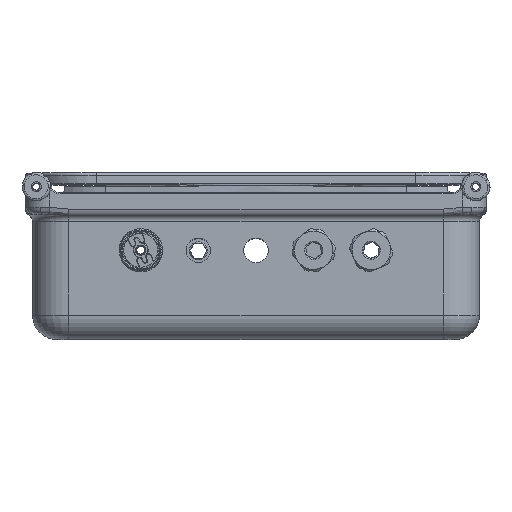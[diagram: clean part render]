
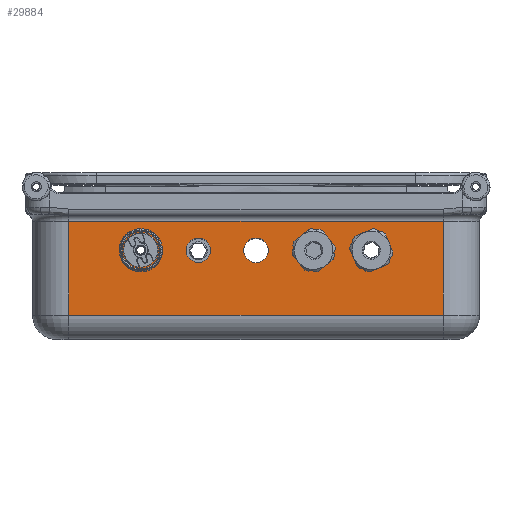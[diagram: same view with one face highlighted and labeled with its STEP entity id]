
A CAD part, top view. The second image highlights one B-rep face of the part: STEP entity #29884.
In plain terms, the highlighted planar face has unit normal (0, 0, 1).
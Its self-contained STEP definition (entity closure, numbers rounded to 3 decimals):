
#692 = DIRECTION ( 'NONE',  ( 1., 0., 0. ) ) ;
#768 = EDGE_CURVE ( 'NONE', #2065, #16257, #3831, .T. ) ;
#784 = VERTEX_POINT ( 'NONE', #29312 ) ;
#921 = CARTESIAN_POINT ( 'NONE',  ( 0., 25., 60.5 ) ) ;
#1260 = VERTEX_POINT ( 'NONE', #15580 ) ;
#1279 = EDGE_CURVE ( 'NONE', #784, #38543, #29090, .T. ) ;
#1467 = CARTESIAN_POINT ( 'NONE',  ( 53.1, 25., 60.5 ) ) ;
#1472 = AXIS2_PLACEMENT_3D ( 'NONE', #921, #37528, #25467 ) ;
#1658 = CARTESIAN_POINT ( 'NONE',  ( 78., -2., 60.5 ) ) ;
#2065 = VERTEX_POINT ( 'NONE', #1467 ) ;
#2340 = AXIS2_PLACEMENT_3D ( 'NONE', #34578, #7045, #31032 ) ;
#2474 = VERTEX_POINT ( 'NONE', #1658 ) ;
#2650 = EDGE_LOOP ( 'NONE', ( #9982, #32530 ) ) ;
#2722 = FACE_BOUND ( 'NONE', #8577, .T. ) ;
#2832 = ORIENTED_EDGE ( 'NONE', *, *, #28181, .T. ) ;
#3793 = ORIENTED_EDGE ( 'NONE', *, *, #23110, .F. ) ;
#3831 = CIRCLE ( 'NONE', #37333, 5.1 ) ;
#4008 = AXIS2_PLACEMENT_3D ( 'NONE', #27249, #12195, #9604 ) ;
#4782 = ORIENTED_EDGE ( 'NONE', *, *, #25006, .F. ) ;
#5859 = AXIS2_PLACEMENT_3D ( 'NONE', #20500, #13742, #30864 ) ;
#6228 = CARTESIAN_POINT ( 'NONE',  ( 48., 25., 60.5 ) ) ;
#6445 = FACE_BOUND ( 'NONE', #38203, .T. ) ;
#6517 = CIRCLE ( 'NONE', #1472, 5.1 ) ;
#7045 = DIRECTION ( 'NONE',  ( 0., 0., 1. ) ) ;
#7762 = EDGE_CURVE ( 'NONE', #33498, #2474, #36591, .T. ) ;
#8102 = CARTESIAN_POINT ( 'NONE',  ( -78., 40., 60.5 ) ) ;
#8577 = EDGE_LOOP ( 'NONE', ( #19871, #4782 ) ) ;
#8723 = VERTEX_POINT ( 'NONE', #35140 ) ;
#9079 = CIRCLE ( 'NONE', #4008, 5.1 ) ;
#9108 = VERTEX_POINT ( 'NONE', #35384 ) ;
#9604 = DIRECTION ( 'NONE',  ( 1., 0., 0. ) ) ;
#9863 = CARTESIAN_POINT ( 'NONE',  ( 78., 40., 60.5 ) ) ;
#9982 = ORIENTED_EDGE ( 'NONE', *, *, #1279, .F. ) ;
#10061 = DIRECTION ( 'NONE',  ( 0., 0., 1. ) ) ;
#10535 = CIRCLE ( 'NONE', #2340, 5.1 ) ;
#10837 = CIRCLE ( 'NONE', #34853, 5.1 ) ;
#10923 = CIRCLE ( 'NONE', #5859, 5.1 ) ;
#10958 = AXIS2_PLACEMENT_3D ( 'NONE', #37974, #10061, #34210 ) ;
#12003 = AXIS2_PLACEMENT_3D ( 'NONE', #33551, #27636, #24680 ) ;
#12195 = DIRECTION ( 'NONE',  ( 0., 0., 1. ) ) ;
#12852 = DIRECTION ( 'NONE',  ( -1., 0., 0. ) ) ;
#12870 = CIRCLE ( 'NONE', #10958, 5.1 ) ;
#13009 = CARTESIAN_POINT ( 'NONE',  ( 78., -2., 60.5 ) ) ;
#13742 = DIRECTION ( 'NONE',  ( 0., 0., 1. ) ) ;
#14326 = VECTOR ( 'NONE', #22125, 1000. ) ;
#15006 = DIRECTION ( 'NONE',  ( 0., 0., 1. ) ) ;
#15049 = CARTESIAN_POINT ( 'NONE',  ( -78., -2., 60.5 ) ) ;
#15315 = EDGE_CURVE ( 'NONE', #38543, #784, #6517, .T. ) ;
#15350 = AXIS2_PLACEMENT_3D ( 'NONE', #24136, #21362, #24351 ) ;
#15580 = CARTESIAN_POINT ( 'NONE',  ( -18.9, 25., 60.5 ) ) ;
#15621 = CARTESIAN_POINT ( 'NONE',  ( 0., 40., 60.5 ) ) ;
#15626 = ORIENTED_EDGE ( 'NONE', *, *, #19529, .F. ) ;
#15850 = CARTESIAN_POINT ( 'NONE',  ( 42.9, 25., 60.5 ) ) ;
#15926 = CARTESIAN_POINT ( 'NONE',  ( 78., 37., 60.5 ) ) ;
#16257 = VERTEX_POINT ( 'NONE', #15850 ) ;
#16580 = EDGE_CURVE ( 'NONE', #34427, #2474, #22332, .T. ) ;
#16636 = CIRCLE ( 'NONE', #15350, 5.1 ) ;
#17248 = DIRECTION ( 'NONE',  ( 1., 0., 0. ) ) ;
#17573 = CARTESIAN_POINT ( 'NONE',  ( -29.1, 25., 60.5 ) ) ;
#17832 = FACE_BOUND ( 'NONE', #22630, .T. ) ;
#17995 = CARTESIAN_POINT ( 'NONE',  ( -78., 37., 60.5 ) ) ;
#18809 = ORIENTED_EDGE ( 'NONE', *, *, #32746, .T. ) ;
#19190 = PLANE ( 'NONE',  #23446 ) ;
#19529 = EDGE_CURVE ( 'NONE', #22649, #9108, #10837, .T. ) ;
#19871 = ORIENTED_EDGE ( 'NONE', *, *, #27699, .F. ) ;
#20227 = CARTESIAN_POINT ( 'NONE',  ( 48., 25., 60.5 ) ) ;
#20500 = CARTESIAN_POINT ( 'NONE',  ( -24., 25., 60.5 ) ) ;
#20939 = VERTEX_POINT ( 'NONE', #31750 ) ;
#21337 = ORIENTED_EDGE ( 'NONE', *, *, #7762, .F. ) ;
#21362 = DIRECTION ( 'NONE',  ( 0., 0., 1. ) ) ;
#21368 = FACE_OUTER_BOUND ( 'NONE', #23696, .T. ) ;
#21584 = DIRECTION ( 'NONE',  ( 0., -1., 0. ) ) ;
#22125 = DIRECTION ( 'NONE',  ( 1., 0., 0. ) ) ;
#22142 = ORIENTED_EDGE ( 'NONE', *, *, #27723, .F. ) ;
#22282 = DIRECTION ( 'NONE',  ( 1., 0., 0. ) ) ;
#22332 = LINE ( 'NONE', #13009, #14326 ) ;
#22415 = CIRCLE ( 'NONE', #31204, 5.1 ) ;
#22630 = EDGE_LOOP ( 'NONE', ( #34511, #15626 ) ) ;
#22649 = VERTEX_POINT ( 'NONE', #26001 ) ;
#23110 = EDGE_CURVE ( 'NONE', #20939, #8723, #16636, .T. ) ;
#23183 = ORIENTED_EDGE ( 'NONE', *, *, #24321, .F. ) ;
#23446 = AXIS2_PLACEMENT_3D ( 'NONE', #15621, #27671, #31219 ) ;
#23696 = EDGE_LOOP ( 'NONE', ( #18809, #33635, #21337, #2832 ) ) ;
#24136 = CARTESIAN_POINT ( 'NONE',  ( 24., 25., 60.5 ) ) ;
#24321 = EDGE_CURVE ( 'NONE', #8723, #20939, #12870, .T. ) ;
#24351 = DIRECTION ( 'NONE',  ( 1., 0., 0. ) ) ;
#24365 = ORIENTED_EDGE ( 'NONE', *, *, #768, .F. ) ;
#24584 = VERTEX_POINT ( 'NONE', #17573 ) ;
#24680 = DIRECTION ( 'NONE',  ( 1., 0., 0. ) ) ;
#24744 = CARTESIAN_POINT ( 'NONE',  ( -78., 37., 60.5 ) ) ;
#25006 = EDGE_CURVE ( 'NONE', #24584, #1260, #10923, .T. ) ;
#25095 = FACE_BOUND ( 'NONE', #25912, .T. ) ;
#25369 = VECTOR ( 'NONE', #21584, 1000. ) ;
#25467 = DIRECTION ( 'NONE',  ( 1., 0., 0. ) ) ;
#25503 = CARTESIAN_POINT ( 'NONE',  ( -5.1, 25., 60.5 ) ) ;
#25912 = EDGE_LOOP ( 'NONE', ( #23183, #3793 ) ) ;
#26001 = CARTESIAN_POINT ( 'NONE',  ( -53.1, 25., 60.5 ) ) ;
#26897 = FACE_BOUND ( 'NONE', #2650, .T. ) ;
#26912 = VERTEX_POINT ( 'NONE', #17995 ) ;
#27249 = CARTESIAN_POINT ( 'NONE',  ( -24., 25., 60.5 ) ) ;
#27520 = LINE ( 'NONE', #24744, #36225 ) ;
#27636 = DIRECTION ( 'NONE',  ( 0., 0., 1. ) ) ;
#27671 = DIRECTION ( 'NONE',  ( 0., 0., -1. ) ) ;
#27699 = EDGE_CURVE ( 'NONE', #1260, #24584, #9079, .T. ) ;
#27723 = EDGE_CURVE ( 'NONE', #16257, #2065, #22415, .T. ) ;
#28181 = EDGE_CURVE ( 'NONE', #33498, #26912, #27520, .T. ) ;
#29090 = CIRCLE ( 'NONE', #12003, 5.1 ) ;
#29310 = VECTOR ( 'NONE', #32672, 1000. ) ;
#29312 = CARTESIAN_POINT ( 'NONE',  ( 5.1, 25., 60.5 ) ) ;
#29884 = ADVANCED_FACE ( 'NONE', ( #17832, #2722, #26897, #25095, #6445, #21368 ), #19190, .F. ) ;
#30864 = DIRECTION ( 'NONE',  ( 1., 0., 0. ) ) ;
#31032 = DIRECTION ( 'NONE',  ( 1., 0., 0. ) ) ;
#31204 = AXIS2_PLACEMENT_3D ( 'NONE', #6228, #15006, #692 ) ;
#31219 = DIRECTION ( 'NONE',  ( -1., 0., 0. ) ) ;
#31750 = CARTESIAN_POINT ( 'NONE',  ( 18.9, 25., 60.5 ) ) ;
#32251 = DIRECTION ( 'NONE',  ( 0., 0., 1. ) ) ;
#32484 = LINE ( 'NONE', #8102, #29310 ) ;
#32530 = ORIENTED_EDGE ( 'NONE', *, *, #15315, .F. ) ;
#32672 = DIRECTION ( 'NONE',  ( 0., -1., 0. ) ) ;
#32746 = EDGE_CURVE ( 'NONE', #26912, #34427, #32484, .T. ) ;
#33498 = VERTEX_POINT ( 'NONE', #15926 ) ;
#33551 = CARTESIAN_POINT ( 'NONE',  ( 0., 25., 60.5 ) ) ;
#33635 = ORIENTED_EDGE ( 'NONE', *, *, #16580, .T. ) ;
#34210 = DIRECTION ( 'NONE',  ( 1., 0., 0. ) ) ;
#34427 = VERTEX_POINT ( 'NONE', #15049 ) ;
#34511 = ORIENTED_EDGE ( 'NONE', *, *, #38542, .F. ) ;
#34578 = CARTESIAN_POINT ( 'NONE',  ( -48., 25., 60.5 ) ) ;
#34853 = AXIS2_PLACEMENT_3D ( 'NONE', #37868, #37279, #22282 ) ;
#35140 = CARTESIAN_POINT ( 'NONE',  ( 29.1, 25., 60.5 ) ) ;
#35384 = CARTESIAN_POINT ( 'NONE',  ( -42.9, 25., 60.5 ) ) ;
#36225 = VECTOR ( 'NONE', #12852, 1000. ) ;
#36591 = LINE ( 'NONE', #9863, #25369 ) ;
#37279 = DIRECTION ( 'NONE',  ( 0., 0., 1. ) ) ;
#37333 = AXIS2_PLACEMENT_3D ( 'NONE', #20227, #32251, #17248 ) ;
#37528 = DIRECTION ( 'NONE',  ( 0., 0., 1. ) ) ;
#37868 = CARTESIAN_POINT ( 'NONE',  ( -48., 25., 60.5 ) ) ;
#37974 = CARTESIAN_POINT ( 'NONE',  ( 24., 25., 60.5 ) ) ;
#38203 = EDGE_LOOP ( 'NONE', ( #24365, #22142 ) ) ;
#38542 = EDGE_CURVE ( 'NONE', #9108, #22649, #10535, .T. ) ;
#38543 = VERTEX_POINT ( 'NONE', #25503 ) ;
